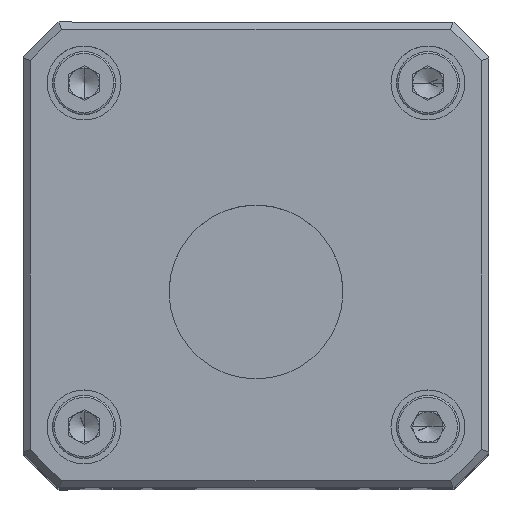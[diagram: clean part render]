
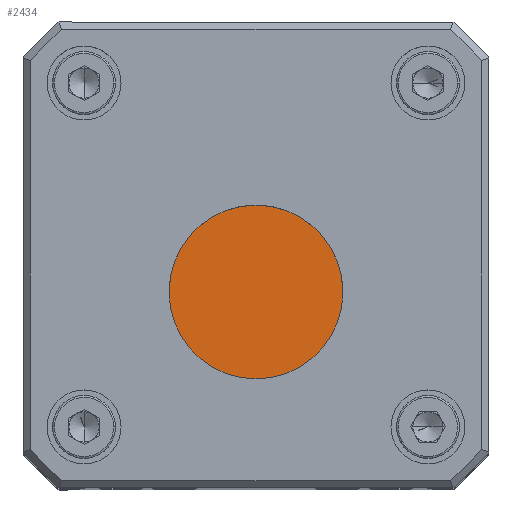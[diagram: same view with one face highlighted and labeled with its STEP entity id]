
A CAD part, top view. The second image highlights one B-rep face of the part: STEP entity #2434.
In plain terms, the highlighted planar face has unit normal (0, 0, 1).
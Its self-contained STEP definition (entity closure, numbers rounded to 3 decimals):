
#28 = DIRECTION ( 'NONE',  ( 1., 0., 0. ) ) ;
#1074 = CARTESIAN_POINT ( 'NONE',  ( 11.75, -344., 90. ) ) ;
#1342 = ORIENTED_EDGE ( 'NONE', *, *, #7624, .T. ) ;
#2434 = ADVANCED_FACE ( 'NONE', ( #7423 ), #12914, .F. ) ;
#2559 = DIRECTION ( 'NONE',  ( 1., 0., 0. ) ) ;
#2960 = EDGE_LOOP ( 'NONE', ( #13380, #1342 ) ) ;
#3470 = DIRECTION ( 'NONE',  ( 0., 0., 1. ) ) ;
#4089 = AXIS2_PLACEMENT_3D ( 'NONE', #11508, #4909, #2559 ) ;
#4173 = CARTESIAN_POINT ( 'NONE',  ( 11.61, -327.35, 90. ) ) ;
#4909 = DIRECTION ( 'NONE',  ( 0., 0., 1. ) ) ;
#6199 = EDGE_CURVE ( 'NONE', #11821, #8972, #13059, .T. ) ;
#6351 = DIRECTION ( 'NONE',  ( 0., 1., 0. ) ) ;
#6762 = AXIS2_PLACEMENT_3D ( 'NONE', #4173, #14112, #6351 ) ;
#7423 = FACE_OUTER_BOUND ( 'NONE', #2960, .T. ) ;
#7624 = EDGE_CURVE ( 'NONE', #8972, #11821, #10399, .T. ) ;
#7695 = AXIS2_PLACEMENT_3D ( 'NONE', #8767, #3470, #28 ) ;
#8767 = CARTESIAN_POINT ( 'NONE',  ( 0., -344., 90. ) ) ;
#8972 = VERTEX_POINT ( 'NONE', #11167 ) ;
#10399 = CIRCLE ( 'NONE', #4089, 11.75 ) ;
#11167 = CARTESIAN_POINT ( 'NONE',  ( -11.75, -344., 90. ) ) ;
#11508 = CARTESIAN_POINT ( 'NONE',  ( 0., -344., 90. ) ) ;
#11821 = VERTEX_POINT ( 'NONE', #1074 ) ;
#12914 = PLANE ( 'NONE',  #6762 ) ;
#13059 = CIRCLE ( 'NONE', #7695, 11.75 ) ;
#13380 = ORIENTED_EDGE ( 'NONE', *, *, #6199, .T. ) ;
#14112 = DIRECTION ( 'NONE',  ( 0., 0., -1. ) ) ;
